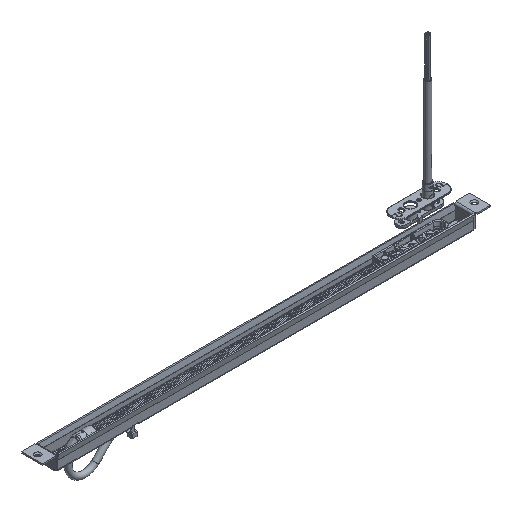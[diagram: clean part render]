
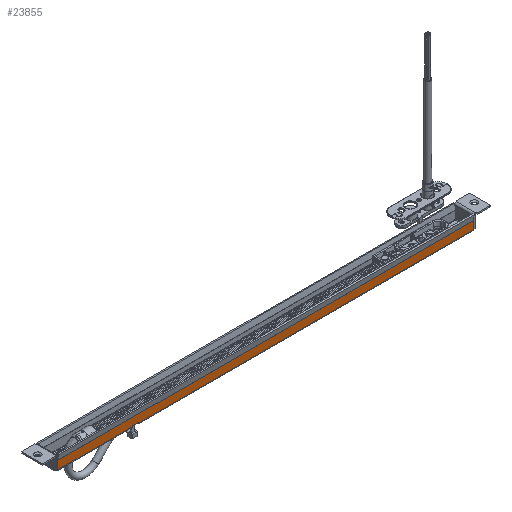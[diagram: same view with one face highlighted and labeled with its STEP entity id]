
A CAD part, isometric view. The second image highlights one B-rep face of the part: STEP entity #23855.
In plain terms, the highlighted planar face has unit normal (0, -1, 0).
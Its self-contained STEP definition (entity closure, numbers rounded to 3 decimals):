
#413=PLANE('',#25384);
#1170=CIRCLE('',#25259,0.5);
#1173=CIRCLE('',#25264,0.5);
#2744=FACE_OUTER_BOUND('',#4152,.T.);
#4152=EDGE_LOOP('',(#15342,#15343,#15344,#15345,#15346,#15347,#15348,#15349));
#6248=LINE('',#35565,#7709);
#6288=LINE('',#35682,#7749);
#6289=LINE('',#35687,#7750);
#6348=LINE('',#35869,#7809);
#6367=LINE('',#35908,#7828);
#6368=LINE('',#35910,#7829);
#7709=VECTOR('',#28128,10.);
#7749=VECTOR('',#28254,10.);
#7750=VECTOR('',#28261,10.);
#7809=VECTOR('',#28442,10.);
#7828=VECTOR('',#28489,10.);
#7829=VECTOR('',#28492,1.16);
#9219=VERTEX_POINT('',#35555);
#9220=VERTEX_POINT('',#35556);
#9223=VERTEX_POINT('',#35564);
#9226=VERTEX_POINT('',#35572);
#9257=VERTEX_POINT('',#35681);
#9258=VERTEX_POINT('',#35685);
#9319=VERTEX_POINT('',#35866);
#9320=VERTEX_POINT('',#35868);
#11460=EDGE_CURVE('',#9219,#9220,#1170,.T.);
#11464=EDGE_CURVE('',#9223,#9220,#6248,.T.);
#11468=EDGE_CURVE('',#9223,#9226,#1173,.T.);
#11526=EDGE_CURVE('',#9257,#9226,#6288,.T.);
#11529=EDGE_CURVE('',#9219,#9258,#6289,.T.);
#11619=EDGE_CURVE('',#9320,#9319,#6348,.T.);
#11641=EDGE_CURVE('',#9257,#9319,#6367,.T.);
#11642=EDGE_CURVE('',#9320,#9258,#6368,.T.);
#15342=ORIENTED_EDGE('',*,*,#11529,.T.);
#15343=ORIENTED_EDGE('',*,*,#11642,.F.);
#15344=ORIENTED_EDGE('',*,*,#11619,.T.);
#15345=ORIENTED_EDGE('',*,*,#11641,.F.);
#15346=ORIENTED_EDGE('',*,*,#11526,.T.);
#15347=ORIENTED_EDGE('',*,*,#11468,.F.);
#15348=ORIENTED_EDGE('',*,*,#11464,.T.);
#15349=ORIENTED_EDGE('',*,*,#11460,.F.);
#23855=ADVANCED_FACE('',(#2744),#413,.F.);
#25259=AXIS2_PLACEMENT_3D('',#35557,#28120,#28121);
#25264=AXIS2_PLACEMENT_3D('',#35573,#28135,#28136);
#25384=AXIS2_PLACEMENT_3D('',#35912,#28494,#28495);
#28120=DIRECTION('center_axis',(0.,-1.,0.));
#28121=DIRECTION('ref_axis',(0.707,0.,0.707));
#28128=DIRECTION('',(1.,0.,0.));
#28135=DIRECTION('center_axis',(0.,-1.,0.));
#28136=DIRECTION('ref_axis',(-0.707,0.,0.707));
#28254=DIRECTION('',(1.,0.,0.));
#28261=DIRECTION('',(1.,0.,0.));
#28442=DIRECTION('',(-1.,0.,0.));
#28489=DIRECTION('',(0.,0.,1.));
#28492=DIRECTION('',(0.,0.,-1.));
#28494=DIRECTION('center_axis',(0.,1.,0.));
#28495=DIRECTION('ref_axis',(1.,0.,0.));
#35555=CARTESIAN_POINT('',(-144.,-11.,2.));
#35556=CARTESIAN_POINT('',(-144.5,-11.,2.5));
#35557=CARTESIAN_POINT('Origin',(-144.5,-11.,2.));
#35564=CARTESIAN_POINT('',(-151.5,-11.,2.5));
#35565=CARTESIAN_POINT('',(-74.,-11.,2.5));
#35572=CARTESIAN_POINT('',(-152.,-11.,2.));
#35573=CARTESIAN_POINT('Origin',(-151.5,-11.,2.));
#35681=CARTESIAN_POINT('',(-237.,-11.,2.));
#35682=CARTESIAN_POINT('',(0.,-11.,2.));
#35685=CARTESIAN_POINT('',(237.,-11.,2.));
#35687=CARTESIAN_POINT('',(0.,-11.,2.));
#35866=CARTESIAN_POINT('',(-237.,-11.,11.043));
#35868=CARTESIAN_POINT('',(237.,-11.,11.043));
#35869=CARTESIAN_POINT('',(118.5,-11.,11.043));
#35908=CARTESIAN_POINT('',(-237.,-11.,2.));
#35910=CARTESIAN_POINT('',(237.,-11.,-1.644));
#35912=CARTESIAN_POINT('Origin',(0.,-11.,5.689));
